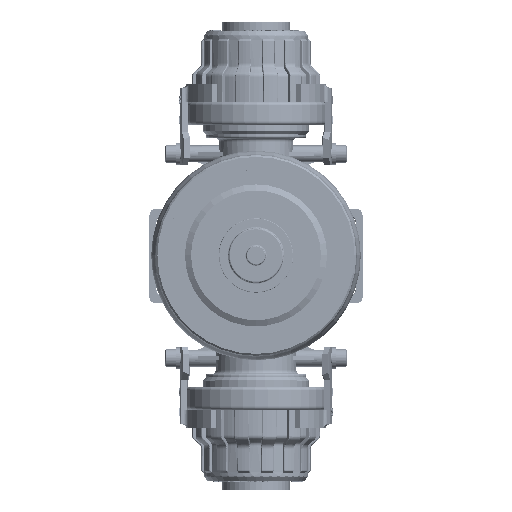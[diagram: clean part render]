
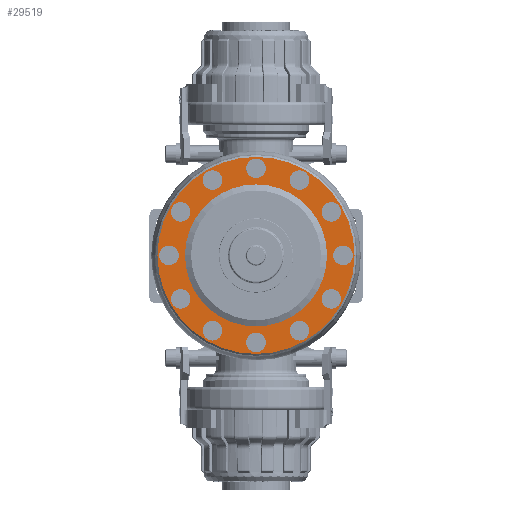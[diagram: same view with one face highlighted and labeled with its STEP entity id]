
A CAD part, top view. The second image highlights one B-rep face of the part: STEP entity #29519.
In plain terms, the highlighted planar face has unit normal (0, 0, 1) as drawn and (0, 1, 0) by its records, which use the part's own axes.
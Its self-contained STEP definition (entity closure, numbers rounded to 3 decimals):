
#25794=PLANE('',#93508);
#29519=ADVANCED_FACE('',(#35083,#35084,#35085,#35086,#35087,#35088,#35089,
#35090,#35091,#35092,#35093,#35094,#35095,#35096),#25794,.T.);
#35083=FACE_BOUND('',#37820,.T.);
#35084=FACE_BOUND('',#37821,.T.);
#35085=FACE_BOUND('',#37822,.T.);
#35086=FACE_BOUND('',#37823,.T.);
#35087=FACE_BOUND('',#37824,.T.);
#35088=FACE_BOUND('',#37825,.T.);
#35089=FACE_BOUND('',#37826,.T.);
#35090=FACE_BOUND('',#37827,.T.);
#35091=FACE_BOUND('',#37828,.T.);
#35092=FACE_BOUND('',#37829,.T.);
#35093=FACE_BOUND('',#37830,.T.);
#35094=FACE_BOUND('',#37831,.T.);
#35095=FACE_BOUND('',#37832,.T.);
#35096=FACE_BOUND('',#37833,.T.);
#37820=EDGE_LOOP('',(#46605));
#37821=EDGE_LOOP('',(#46606));
#37822=EDGE_LOOP('',(#46607));
#37823=EDGE_LOOP('',(#46608));
#37824=EDGE_LOOP('',(#46609));
#37825=EDGE_LOOP('',(#46610));
#37826=EDGE_LOOP('',(#46611));
#37827=EDGE_LOOP('',(#46612));
#37828=EDGE_LOOP('',(#46613));
#37829=EDGE_LOOP('',(#46614));
#37830=EDGE_LOOP('',(#46615));
#37831=EDGE_LOOP('',(#46616));
#37832=EDGE_LOOP('',(#46617));
#37833=EDGE_LOOP('',(#46618));
#46605=ORIENTED_EDGE('',*,*,#77363,.F.);
#46606=ORIENTED_EDGE('',*,*,#77364,.T.);
#46607=ORIENTED_EDGE('',*,*,#77365,.T.);
#46608=ORIENTED_EDGE('',*,*,#77366,.T.);
#46609=ORIENTED_EDGE('',*,*,#77367,.T.);
#46610=ORIENTED_EDGE('',*,*,#77368,.T.);
#46611=ORIENTED_EDGE('',*,*,#77369,.T.);
#46612=ORIENTED_EDGE('',*,*,#77370,.T.);
#46613=ORIENTED_EDGE('',*,*,#77371,.T.);
#46614=ORIENTED_EDGE('',*,*,#77372,.T.);
#46615=ORIENTED_EDGE('',*,*,#77373,.T.);
#46616=ORIENTED_EDGE('',*,*,#77374,.T.);
#46617=ORIENTED_EDGE('',*,*,#77375,.T.);
#46618=ORIENTED_EDGE('',*,*,#77362,.F.);
#68955=VERTEX_POINT('',#127229);
#68956=VERTEX_POINT('',#127232);
#68957=VERTEX_POINT('',#127234);
#68958=VERTEX_POINT('',#127236);
#68959=VERTEX_POINT('',#127238);
#68960=VERTEX_POINT('',#127240);
#68961=VERTEX_POINT('',#127242);
#68962=VERTEX_POINT('',#127244);
#68963=VERTEX_POINT('',#127246);
#68964=VERTEX_POINT('',#127248);
#68965=VERTEX_POINT('',#127250);
#68966=VERTEX_POINT('',#127252);
#68967=VERTEX_POINT('',#127254);
#68968=VERTEX_POINT('',#127256);
#77362=EDGE_CURVE('',#68955,#68955,#88678,.T.);
#77363=EDGE_CURVE('',#68956,#68956,#88679,.T.);
#77364=EDGE_CURVE('',#68957,#68957,#88680,.T.);
#77365=EDGE_CURVE('',#68958,#68958,#88681,.T.);
#77366=EDGE_CURVE('',#68959,#68959,#88682,.T.);
#77367=EDGE_CURVE('',#68960,#68960,#88683,.T.);
#77368=EDGE_CURVE('',#68961,#68961,#88684,.T.);
#77369=EDGE_CURVE('',#68962,#68962,#88685,.T.);
#77370=EDGE_CURVE('',#68963,#68963,#88686,.T.);
#77371=EDGE_CURVE('',#68964,#68964,#88687,.T.);
#77372=EDGE_CURVE('',#68965,#68965,#88688,.T.);
#77373=EDGE_CURVE('',#68966,#68966,#88689,.T.);
#77374=EDGE_CURVE('',#68967,#68967,#88690,.T.);
#77375=EDGE_CURVE('',#68968,#68968,#88691,.T.);
#88678=CIRCLE('',#93493,55.5);
#88679=CIRCLE('',#93495,40.);
#88680=CIRCLE('',#93496,5.5);
#88681=CIRCLE('',#93497,5.5);
#88682=CIRCLE('',#93498,5.5);
#88683=CIRCLE('',#93499,5.5);
#88684=CIRCLE('',#93500,5.5);
#88685=CIRCLE('',#93501,5.5);
#88686=CIRCLE('',#93502,5.5);
#88687=CIRCLE('',#93503,5.5);
#88688=CIRCLE('',#93504,5.5);
#88689=CIRCLE('',#93505,5.5);
#88690=CIRCLE('',#93506,5.5);
#88691=CIRCLE('',#93507,5.5);
#93493=AXIS2_PLACEMENT_3D('',#127228,#104441,#104442);
#93495=AXIS2_PLACEMENT_3D('',#127231,#104445,#104446);
#93496=AXIS2_PLACEMENT_3D('',#127233,#104447,#104448);
#93497=AXIS2_PLACEMENT_3D('',#127235,#104449,#104450);
#93498=AXIS2_PLACEMENT_3D('',#127237,#104451,#104452);
#93499=AXIS2_PLACEMENT_3D('',#127239,#104453,#104454);
#93500=AXIS2_PLACEMENT_3D('',#127241,#104455,#104456);
#93501=AXIS2_PLACEMENT_3D('',#127243,#104457,#104458);
#93502=AXIS2_PLACEMENT_3D('',#127245,#104459,#104460);
#93503=AXIS2_PLACEMENT_3D('',#127247,#104461,#104462);
#93504=AXIS2_PLACEMENT_3D('',#127249,#104463,#104464);
#93505=AXIS2_PLACEMENT_3D('',#127251,#104465,#104466);
#93506=AXIS2_PLACEMENT_3D('',#127253,#104467,#104468);
#93507=AXIS2_PLACEMENT_3D('',#127255,#104469,#104470);
#93508=AXIS2_PLACEMENT_3D('',#127257,#104471,#104472);
#104441=DIRECTION('',(0.,-1.,0.));
#104442=DIRECTION('',(-1.,0.,0.));
#104445=DIRECTION('',(0.,1.,0.));
#104446=DIRECTION('',(1.,0.,0.));
#104447=DIRECTION('',(0.,-1.,0.));
#104448=DIRECTION('',(1.,0.,0.));
#104449=DIRECTION('',(0.,-1.,0.));
#104450=DIRECTION('',(0.866,0.,-0.5));
#104451=DIRECTION('',(0.,-1.,0.));
#104452=DIRECTION('',(0.5,0.,-0.866));
#104453=DIRECTION('',(0.,-1.,0.));
#104454=DIRECTION('',(0.,0.,-1.));
#104455=DIRECTION('',(0.,-1.,0.));
#104456=DIRECTION('',(-0.5,0.,-0.866));
#104457=DIRECTION('',(0.,-1.,0.));
#104458=DIRECTION('',(-0.866,0.,-0.5));
#104459=DIRECTION('',(0.,-1.,0.));
#104460=DIRECTION('',(-1.,0.,0.));
#104461=DIRECTION('',(0.,-1.,0.));
#104462=DIRECTION('',(-0.866,0.,0.5));
#104463=DIRECTION('',(0.,-1.,0.));
#104464=DIRECTION('',(-0.5,0.,0.866));
#104465=DIRECTION('',(0.,-1.,0.));
#104466=DIRECTION('',(0.,0.,1.));
#104467=DIRECTION('',(0.,-1.,0.));
#104468=DIRECTION('',(0.5,0.,0.866));
#104469=DIRECTION('',(0.,-1.,0.));
#104470=DIRECTION('',(0.866,0.,0.5));
#104471=DIRECTION('',(0.,1.,0.));
#104472=DIRECTION('',(0.,0.,-1.));
#127228=CARTESIAN_POINT('',(0.,50.,0.));
#127229=CARTESIAN_POINT('',(55.5,50.,0.));
#127231=CARTESIAN_POINT('',(0.,50.,0.));
#127232=CARTESIAN_POINT('',(40.,50.,0.));
#127233=CARTESIAN_POINT('',(0.,50.,-49.));
#127234=CARTESIAN_POINT('',(5.5,50.,-49.));
#127235=CARTESIAN_POINT('',(-24.5,50.,-42.435));
#127236=CARTESIAN_POINT('',(-19.737,50.,-45.185));
#127237=CARTESIAN_POINT('',(-42.435,50.,-24.5));
#127238=CARTESIAN_POINT('',(-39.685,50.,-29.263));
#127239=CARTESIAN_POINT('',(-49.,50.,0.));
#127240=CARTESIAN_POINT('',(-49.,50.,-5.5));
#127241=CARTESIAN_POINT('',(-42.435,50.,24.5));
#127242=CARTESIAN_POINT('',(-45.185,50.,19.737));
#127243=CARTESIAN_POINT('',(-24.5,50.,42.435));
#127244=CARTESIAN_POINT('',(-29.263,50.,39.685));
#127245=CARTESIAN_POINT('',(0.,50.,49.));
#127246=CARTESIAN_POINT('',(-5.5,50.,49.));
#127247=CARTESIAN_POINT('',(24.5,50.,42.435));
#127248=CARTESIAN_POINT('',(19.737,50.,45.185));
#127249=CARTESIAN_POINT('',(42.435,50.,24.5));
#127250=CARTESIAN_POINT('',(39.685,50.,29.263));
#127251=CARTESIAN_POINT('',(49.,50.,0.));
#127252=CARTESIAN_POINT('',(49.,50.,5.5));
#127253=CARTESIAN_POINT('',(42.435,50.,-24.5));
#127254=CARTESIAN_POINT('',(45.185,50.,-19.737));
#127255=CARTESIAN_POINT('',(24.5,50.,-42.435));
#127256=CARTESIAN_POINT('',(29.263,50.,-39.685));
#127257=CARTESIAN_POINT('',(40.,50.,0.));
